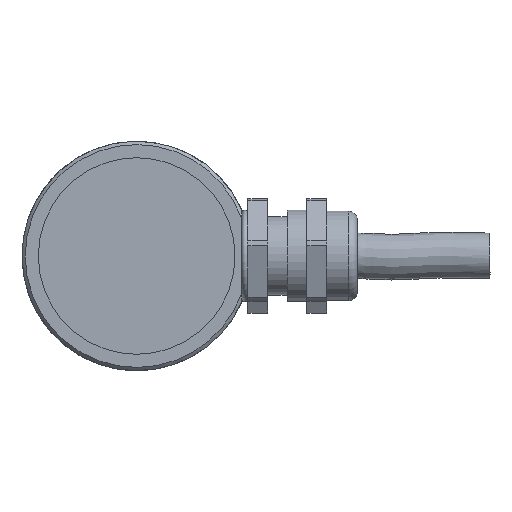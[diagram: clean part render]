
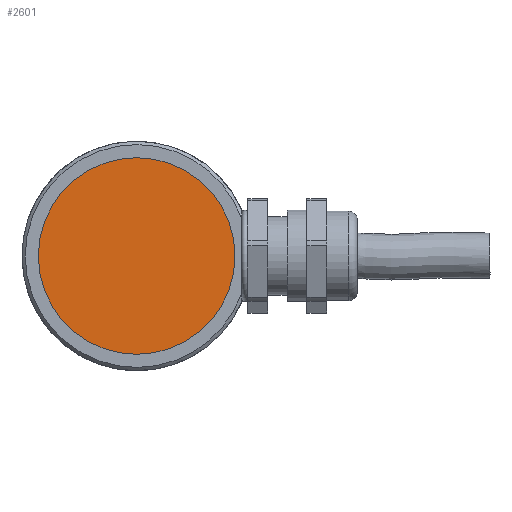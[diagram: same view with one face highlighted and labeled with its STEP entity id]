
A CAD part, left-side view. The second image highlights one B-rep face of the part: STEP entity #2601.
In plain terms, the highlighted planar face has unit normal (-1, 0, 0).
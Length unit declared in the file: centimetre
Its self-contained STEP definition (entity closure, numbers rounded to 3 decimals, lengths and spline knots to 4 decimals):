
#975=PLANE('',#2748);
#1081=VERTEX_POINT('',#2936);
#1279=CIRCLE('',#2747,1.5);
#1342=EDGE_CURVE('',#1081,#1081,#1279,.T.);
#1664=ORIENTED_EDGE('',*,*,#1342,.T.);
#2285=EDGE_LOOP('',(#1664));
#2445=FACE_BOUND('',#2285,.T.);
#2601=ADVANCED_FACE('',(#2445),#975,.F.);
#2747=AXIS2_PLACEMENT_3D('',#2935,#4342,#4343);
#2748=AXIS2_PLACEMENT_3D('',#2937,#4344,$);
#2935=CARTESIAN_POINT('',(-2.8,0.,0.));
#2936=CARTESIAN_POINT('',(-2.8,0.,-1.5));
#2937=CARTESIAN_POINT('',(-2.8,0.,0.));
#4342=DIRECTION('',(-1.,0.,0.));
#4343=DIRECTION('',(0.,0.,-1.5));
#4344=DIRECTION('',(1.,0.,0.));
